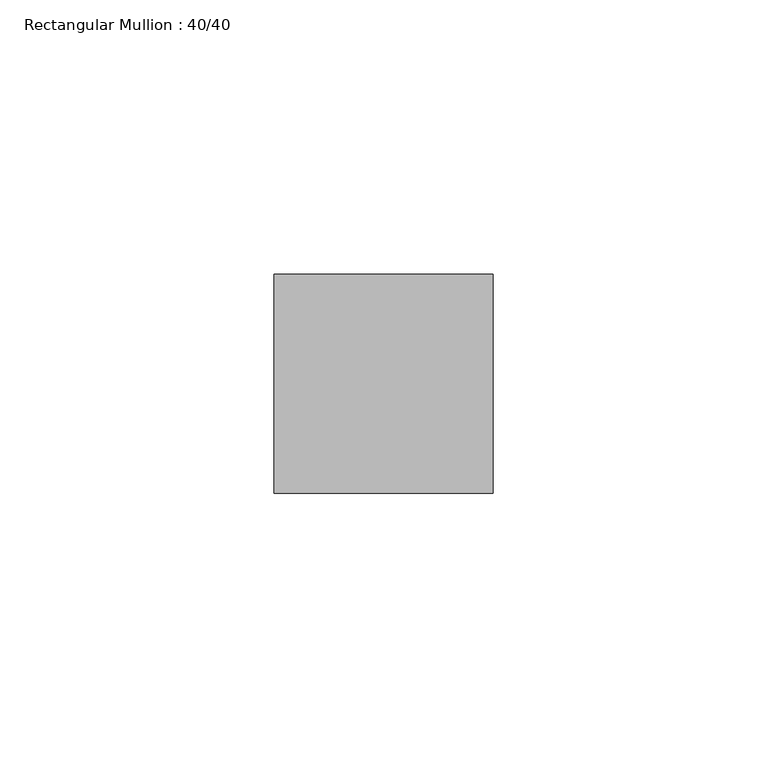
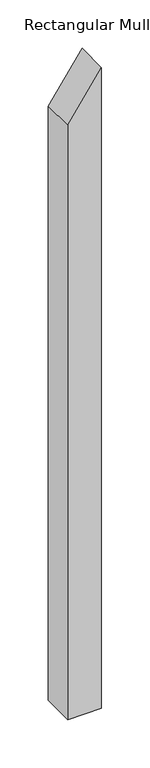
"""IFC4 building model written with IfcOpenShell, lengths in millimetres: member geometry, Rectangular Mullion : 40/40."""

from ifc_helpers import new_model, si_unit, frame, origin, place, context, project, spatial, polyline, outline, extrude, source, transform, mapped, element, save


def rectangular_mullion_40_40_147f6145(model_context):
    return source(origin(), model_context, "Body", "SweptSolid", [
        extrude(outline(polyline([(0.0, 0.0), (-58.4254628, -40.0), (-806.5171447, -40.0), (-806.5171447, 0.0), (0.0, 0.0)])), frame((0.0, -20.0, 0.0), z_axis=(0.0, 1.0, 0.0), x_axis=(0.0, 0.0, 1.0)), (0.0, 0.0, 1.0), 40.0),
    ])


if __name__ == "__main__":
    model = new_model("IFC4")
    model_context = context("Model", 3, world=origin())
    ifc_project = project(units=[si_unit("LENGTHUNIT", "METRE", prefix="MILLI")], contexts=[model_context])
    site = spatial("IfcSite", under=ifc_project)
    building = spatial("IfcBuilding", under=site)
    placement = place(None, origin())
    rectangular_mullion_40_40_shape = rectangular_mullion_40_40_147f6145(model_context)
    element("IfcMember", 1, ObjectType="Rectangular Mullion : 40/40", at=placement, inside=building, context=model_context, shape_type="MappedRepresentation", body=[
        mapped(rectangular_mullion_40_40_shape, transform((0.0, 0.0, 0.0), x_axis=(1.0, 0.0, 0.0), y_axis=(0.0, 1.0, 0.0), z_axis=(0.0, 0.0, 1.0))),
    ])
    save(model, "model.ifc")
